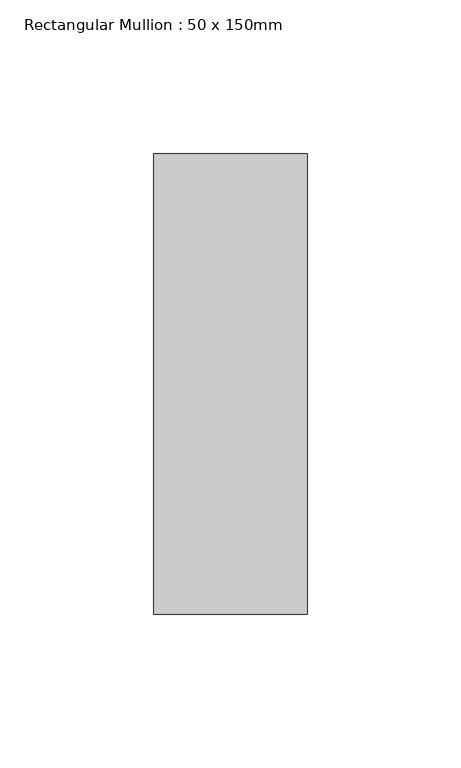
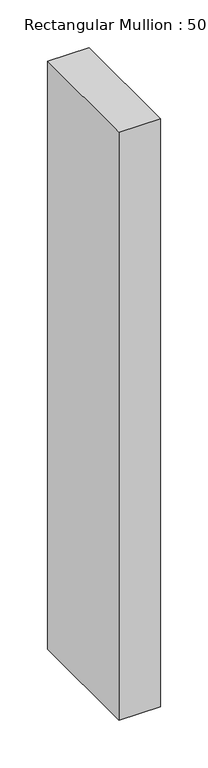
"""IFC4 building model written with IfcOpenShell, lengths in millimetres: member geometry, Rectangular Mullion : 50 x 150mm."""

from ifc_helpers import new_model, si_unit, frame, origin, place, context, project, spatial, polyline, outline, extrude, source, transform, mapped, element, save


def rectangular_mullion_50_x_150mm_a0a80ad6(model_context):
    return source(origin(), model_context, "Body", "SweptSolid", [
        extrude(outline(polyline([(25.0, 75.0), (25.0, -75.0), (-25.0, -75.0), (-25.0, 75.0), (25.0, 75.0)])), frame((0.0, 0.0, -752.3164071), z_axis=(0.0, 0.0, 1.0), x_axis=(1.0, 0.0, 0.0)), (0.0, 0.0, 1.0), 752.3164071),
    ])


if __name__ == "__main__":
    model = new_model("IFC4")
    model_context = context("Model", 3, world=origin())
    ifc_project = project(units=[si_unit("LENGTHUNIT", "METRE", prefix="MILLI")], contexts=[model_context])
    site = spatial("IfcSite", under=ifc_project)
    building = spatial("IfcBuilding", under=site)
    placement = place(None, origin())
    rectangular_mullion_50_x_150mm_shape = rectangular_mullion_50_x_150mm_a0a80ad6(model_context)
    element("IfcMember", 1, ObjectType="Rectangular Mullion : 50 x 150mm", at=placement, inside=building, context=model_context, shape_type="MappedRepresentation", body=[
        mapped(rectangular_mullion_50_x_150mm_shape, transform((0.0, 0.0, 0.0), x_axis=(1.0, 0.0, 0.0), y_axis=(0.0, 1.0, 0.0), z_axis=(0.0, 0.0, 1.0))),
    ])
    save(model, "model.ifc")
